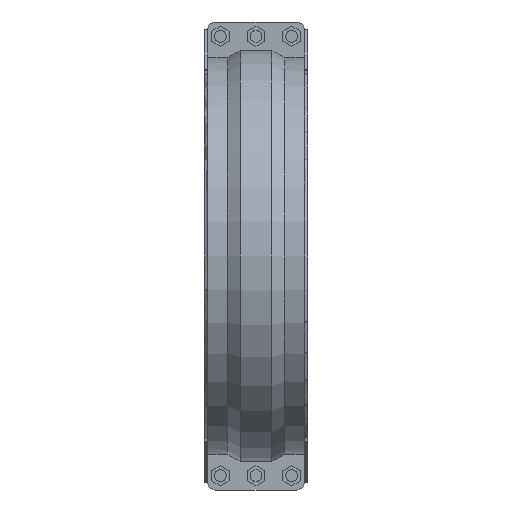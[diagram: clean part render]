
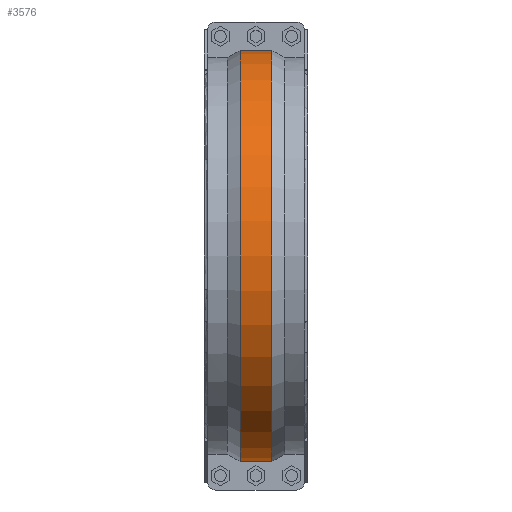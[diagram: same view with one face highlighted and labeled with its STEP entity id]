
A CAD part, front view. The second image highlights one B-rep face of the part: STEP entity #3576.
In plain terms, the highlighted cylindrical face has radius 329.232 mm (diameter 658.464 mm), a partial arc.
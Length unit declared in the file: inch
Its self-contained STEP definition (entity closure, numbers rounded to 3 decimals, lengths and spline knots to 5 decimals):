
#409=FACE_OUTER_BOUND('',#623,.T.);
#623=EDGE_LOOP('',(#3062,#3063,#3064,#3065));
#777=LINE('',#5347,#1116);
#972=LINE('',#5965,#1311);
#1116=VECTOR('',#4277,0.3937);
#1311=VECTOR('',#4788,0.3937);
#1377=CIRCLE('',#3763,12.96188);
#1415=CIRCLE('',#3882,12.96188);
#1557=VERTEX_POINT('',#5342);
#1558=VERTEX_POINT('',#5346);
#1603=VERTEX_POINT('',#5561);
#1730=VERTEX_POINT('',#5961);
#1928=EDGE_CURVE('',#1558,#1557,#777,.T.);
#1998=EDGE_CURVE('',#1603,#1557,#1377,.T.);
#2192=EDGE_CURVE('',#1603,#1730,#972,.T.);
#2199=EDGE_CURVE('',#1730,#1558,#1415,.T.);
#3062=ORIENTED_EDGE('',*,*,#1928,.T.);
#3063=ORIENTED_EDGE('',*,*,#1998,.F.);
#3064=ORIENTED_EDGE('',*,*,#2192,.T.);
#3065=ORIENTED_EDGE('',*,*,#2199,.T.);
#3208=CYLINDRICAL_SURFACE('',#3881,12.96188);
#3576=ADVANCED_FACE('',(#409),#3208,.T.);
#3763=AXIS2_PLACEMENT_3D('',#5565,#4409,#4410);
#3881=AXIS2_PLACEMENT_3D('',#5979,#4807,#4808);
#3882=AXIS2_PLACEMENT_3D('',#5980,#4809,#4810);
#4277=DIRECTION('',(1.,0.,0.));
#4409=DIRECTION('center_axis',(1.,0.,0.));
#4410=DIRECTION('ref_axis',(0.,0.,-1.));
#4788=DIRECTION('',(-1.,0.,0.));
#4807=DIRECTION('center_axis',(1.,0.,0.));
#4808=DIRECTION('ref_axis',(0.,-1.,0.));
#4809=DIRECTION('center_axis',(1.,0.,0.));
#4810=DIRECTION('ref_axis',(0.,0.,-1.));
#5342=CARTESIAN_POINT('',(1.,-0.375,-12.95645));
#5346=CARTESIAN_POINT('',(-1.,-0.375,-12.95645));
#5347=CARTESIAN_POINT('',(0.5,-0.375,-12.95645));
#5561=CARTESIAN_POINT('',(1.,-0.375,12.95645));
#5565=CARTESIAN_POINT('Origin',(1.,0.,0.));
#5961=CARTESIAN_POINT('',(-1.,-0.375,12.95645));
#5965=CARTESIAN_POINT('',(0.5,-0.375,12.95645));
#5979=CARTESIAN_POINT('Origin',(0.5,0.,0.));
#5980=CARTESIAN_POINT('Origin',(-1.,0.,0.));
